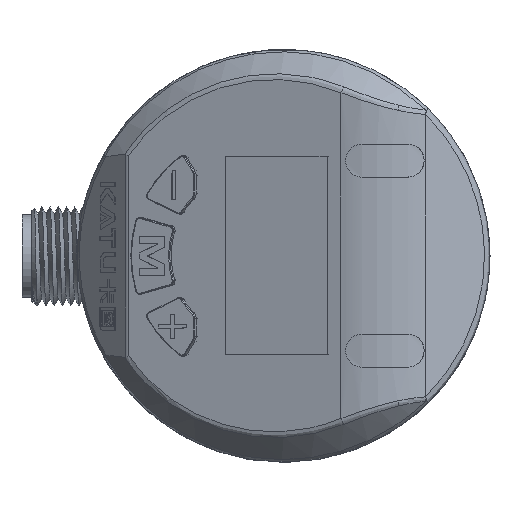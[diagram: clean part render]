
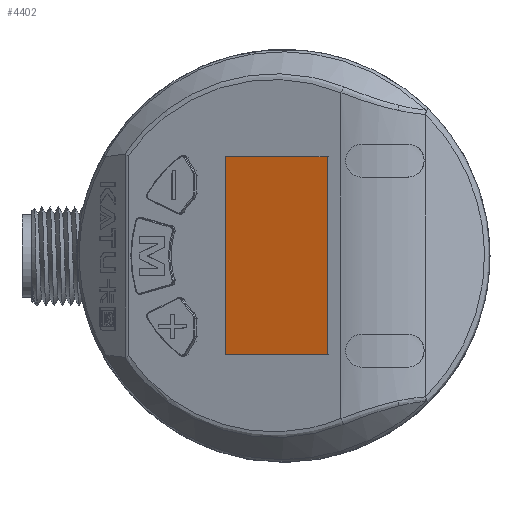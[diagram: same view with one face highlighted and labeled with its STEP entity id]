
A CAD part, top view. The second image highlights one B-rep face of the part: STEP entity #4402.
In plain terms, the highlighted planar face has unit normal (-0.342, 0, 0.94).
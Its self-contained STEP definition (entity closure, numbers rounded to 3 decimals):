
#1785=PLANE('',#12060);
#3018=LINE('',#23290,#3765);
#3019=LINE('',#23293,#3766);
#3020=LINE('',#23295,#3767);
#3021=LINE('',#23297,#3768);
#3765=VECTOR('',#14786,1.);
#3766=VECTOR('',#14787,1.);
#3767=VECTOR('',#14788,1.);
#3768=VECTOR('',#14789,1.);
#4402=ADVANCED_FACE('',(#4914),#1785,.T.);
#4914=FACE_OUTER_BOUND('',#5725,.T.);
#5725=EDGE_LOOP('',(#8432,#8433,#8434,#8435));
#8432=ORIENTED_EDGE('',*,*,#10827,.T.);
#8433=ORIENTED_EDGE('',*,*,#10828,.T.);
#8434=ORIENTED_EDGE('',*,*,#10829,.T.);
#8435=ORIENTED_EDGE('',*,*,#10830,.T.);
#9451=VERTEX_POINT('',#23291);
#9452=VERTEX_POINT('',#23292);
#9453=VERTEX_POINT('',#23294);
#9454=VERTEX_POINT('',#23296);
#10827=EDGE_CURVE('',#9451,#9452,#3018,.T.);
#10828=EDGE_CURVE('',#9452,#9453,#3019,.T.);
#10829=EDGE_CURVE('',#9453,#9454,#3020,.T.);
#10830=EDGE_CURVE('',#9454,#9451,#3021,.T.);
#12060=AXIS2_PLACEMENT_3D('',#23298,#14790,#14791);
#14786=DIRECTION('',(-0.94,0.,-0.342));
#14787=DIRECTION('',(0.,-1.,0.));
#14788=DIRECTION('',(0.94,0.,0.342));
#14789=DIRECTION('',(0.,1.,0.));
#14790=DIRECTION('',(-0.342,0.,0.94));
#14791=DIRECTION('',(-0.94,0.,-0.342));
#23290=CARTESIAN_POINT('',(45.306,12.006,121.2));
#23291=CARTESIAN_POINT('',(36.258,12.002,117.907));
#23292=CARTESIAN_POINT('',(23.939,11.997,113.423));
#23293=CARTESIAN_POINT('',(23.949,-15.759,113.427));
#23294=CARTESIAN_POINT('',(23.948,-11.997,113.426));
#23295=CARTESIAN_POINT('',(45.315,-11.988,121.203));
#23296=CARTESIAN_POINT('',(36.267,-11.992,117.91));
#23297=CARTESIAN_POINT('',(36.268,-15.753,117.91));
#23298=CARTESIAN_POINT('',(45.316,-15.75,121.204));
